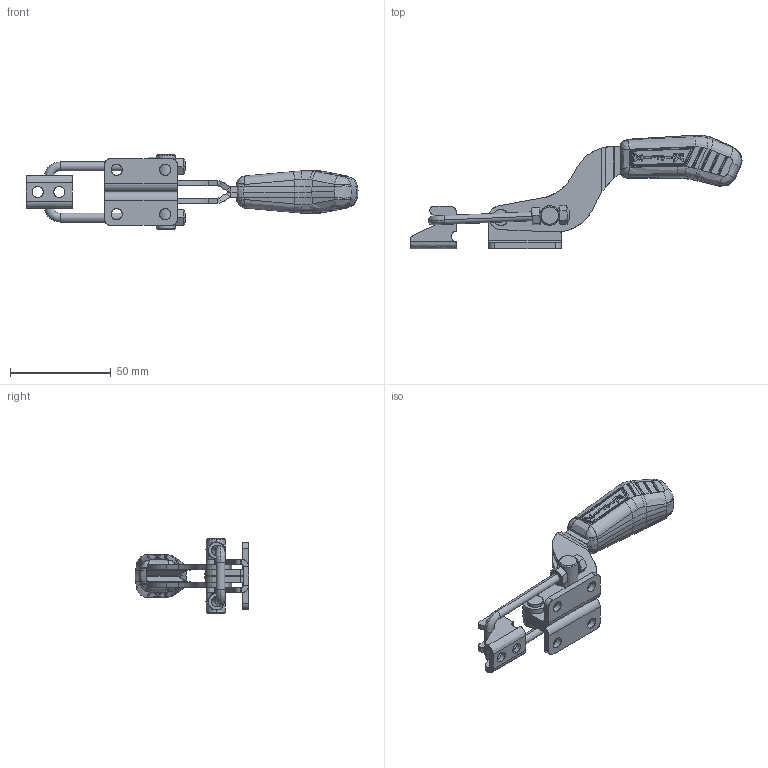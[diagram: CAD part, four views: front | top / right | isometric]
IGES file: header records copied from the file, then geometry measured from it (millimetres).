
Start section: SolidWorks IGES file using analytic representation for surfaces
Global section: file name: C:\Projetos\Grampos\KF-643\KF-643 D\KF-643 D.IGS; native system: SolidWorks 2015; preprocessor: SolidWorks 2015; author: Ricardo; date: 171005.085442; units: millimetre
Bounding box: 164.38 x 56.36 x 37 mm (x, y, z)
Surface area: 26896.7 mm2 (no closed solid volume)
Topology: 0 solids, 0 shells, 924 faces, 9220 edges, 9165 vertices
Faces by surface type: bspline 526, revolution 398
